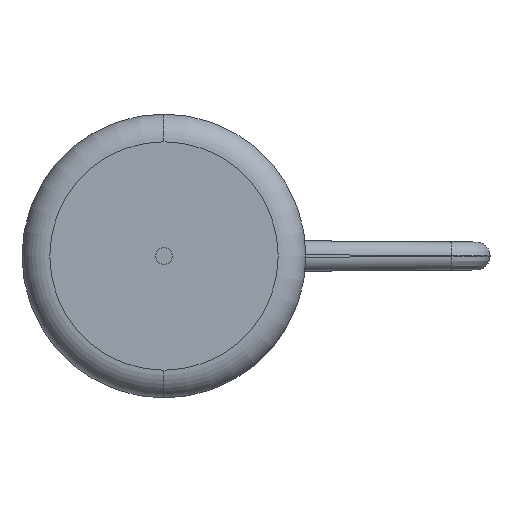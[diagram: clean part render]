
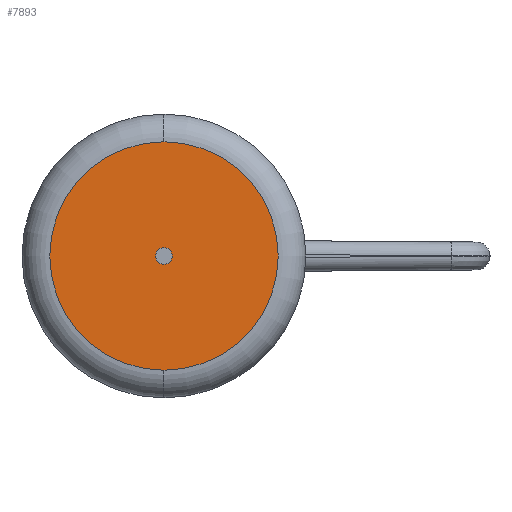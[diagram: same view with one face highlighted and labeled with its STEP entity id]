
A CAD part, front view. The second image highlights one B-rep face of the part: STEP entity #7893.
In plain terms, the highlighted planar face has unit normal (0, -1, 0).
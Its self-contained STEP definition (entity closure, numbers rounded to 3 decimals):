
#7 = AXIS2_PLACEMENT_3D ( 'NONE', #10948, #13131, #8832 ) ;
#15 = AXIS2_PLACEMENT_3D ( 'NONE', #3249, #2367, #1413 ) ;
#131 = FACE_OUTER_BOUND ( 'NONE', #6536, .T. ) ;
#294 = ORIENTED_EDGE ( 'NONE', *, *, #6825, .F. ) ;
#349 = CARTESIAN_POINT ( 'NONE',  ( 0., 0., 0. ) ) ;
#871 = CIRCLE ( 'NONE', #7462, 9. ) ;
#1367 = DIRECTION ( 'NONE',  ( 0., 0., -1. ) ) ;
#1380 = EDGE_CURVE ( 'NONE', #5064, #7733, #11592, .T. ) ;
#1413 = DIRECTION ( 'NONE',  ( 0., 0., 1. ) ) ;
#1500 = DIRECTION ( 'NONE',  ( 0., 0., 1. ) ) ;
#1569 = CIRCLE ( 'NONE', #10968, 123.5 ) ;
#2367 = DIRECTION ( 'NONE',  ( 0., 1., 0. ) ) ;
#2923 = VERTEX_POINT ( 'NONE', #5151 ) ;
#3249 = CARTESIAN_POINT ( 'NONE',  ( -123.5, 0., 0. ) ) ;
#3502 = AXIS2_PLACEMENT_3D ( 'NONE', #13529, #5313, #11635 ) ;
#3545 = DIRECTION ( 'NONE',  ( 0., -1., 0. ) ) ;
#3676 = CARTESIAN_POINT ( 'NONE',  ( 0., 0., 0. ) ) ;
#3709 = CARTESIAN_POINT ( 'NONE',  ( 0., 0., 9. ) ) ;
#4177 = ORIENTED_EDGE ( 'NONE', *, *, #1380, .F. ) ;
#4518 = ORIENTED_EDGE ( 'NONE', *, *, #6883, .T. ) ;
#4686 = EDGE_CURVE ( 'NONE', #2923, #13496, #8772, .T. ) ;
#5064 = VERTEX_POINT ( 'NONE', #3709 ) ;
#5151 = CARTESIAN_POINT ( 'NONE',  ( 0., 0., -123.5 ) ) ;
#5313 = DIRECTION ( 'NONE',  ( 0., -1., 0. ) ) ;
#6410 = PLANE ( 'NONE',  #15 ) ;
#6496 = ORIENTED_EDGE ( 'NONE', *, *, #4686, .T. ) ;
#6536 = EDGE_LOOP ( 'NONE', ( #6496, #4518 ) ) ;
#6825 = EDGE_CURVE ( 'NONE', #7733, #5064, #871, .T. ) ;
#6883 = EDGE_CURVE ( 'NONE', #13496, #2923, #1569, .T. ) ;
#7462 = AXIS2_PLACEMENT_3D ( 'NONE', #349, #3545, #1500 ) ;
#7733 = VERTEX_POINT ( 'NONE', #9296 ) ;
#7893 = ADVANCED_FACE ( 'NONE', ( #8612, #131 ), #6410, .F. ) ;
#8612 = FACE_BOUND ( 'NONE', #10979, .T. ) ;
#8772 = CIRCLE ( 'NONE', #3502, 123.5 ) ;
#8832 = DIRECTION ( 'NONE',  ( 0., 0., 1. ) ) ;
#9296 = CARTESIAN_POINT ( 'NONE',  ( 0., 0., -9. ) ) ;
#9529 = CARTESIAN_POINT ( 'NONE',  ( 0., 0., 123.5 ) ) ;
#10886 = DIRECTION ( 'NONE',  ( 0., -1., 0. ) ) ;
#10948 = CARTESIAN_POINT ( 'NONE',  ( 0., 0., 0. ) ) ;
#10968 = AXIS2_PLACEMENT_3D ( 'NONE', #3676, #10886, #1367 ) ;
#10979 = EDGE_LOOP ( 'NONE', ( #4177, #294 ) ) ;
#11592 = CIRCLE ( 'NONE', #7, 9. ) ;
#11635 = DIRECTION ( 'NONE',  ( 0., 0., -1. ) ) ;
#13131 = DIRECTION ( 'NONE',  ( 0., -1., 0. ) ) ;
#13496 = VERTEX_POINT ( 'NONE', #9529 ) ;
#13529 = CARTESIAN_POINT ( 'NONE',  ( 0., 0., 0. ) ) ;
